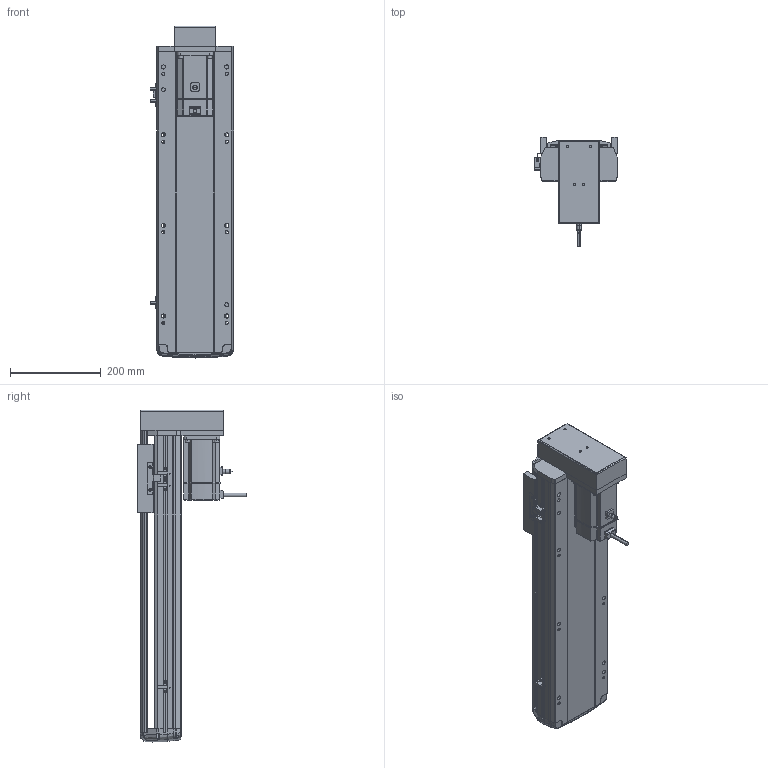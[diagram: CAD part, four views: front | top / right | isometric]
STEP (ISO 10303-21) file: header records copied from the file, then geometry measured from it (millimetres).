
FILE_DESCRIPTION (( 'STEP AP214' ), '1' );
FILE_NAME ('RTH17-XX-450-M-M75-C4.STEP', '2025-10-24T10:23:30', ( '' ), ( '' ), 'SwSTEP 2.0', 'SolidWorks 2018', '' );
FILE_SCHEMA (( 'AUTOMOTIVE_DESIGN' ));
Length unit declared in the file: millimetre
Products named in the file (10): N_M75^RTH17-XX-XX-M-M75-C4（方程式）; N_RTH17-E-004丝杆螺母连接座^RTH17-XX-XX-M-M75-C4（方程式）; N_RTH17-M-018盖子^RTH17-XX-XX-M-M75-C4（方程式）; N_RTH17-M-008-P75电机安装板下折750W^RTH17-XX-XX-M-M75-C4（方程式）; N_RTH17-GY-001P^RTH17-XX-XX-M-M75-C4（方程式）; N_RTH-BL-012 感应片(外置)^RTH17-XX-XX-M-M75-C4（方程式）; RTH17-XX-450-M-M75-C4; N_RTH17-M-007上盖^RTH17-XX-XX-M-M75-C4（方程式）; N_OMRON EE-SX672 換覜ん^RTH17-XX-XX-M-M75-C4ㄗ源最宒ㄘ; N_RTH17-M-011底座^RTH17-XX-XX-M-M75-C4（方程式）
Assembly tree (11 placements, depth 2):
  RTH17-XX-450-M-M75-C4
    N_RTH17-M-011底座^RTH17-XX-XX-M-M75-C4（方程式）
    N_RTH17-M-007上盖^RTH17-XX-XX-M-M75-C4（方程式）
    N_M75^RTH17-XX-XX-M-M75-C4（方程式）
    N_OMRON EE-SX672 換覜ん^RTH17-XX-XX-M-M75-C4ㄗ源最宒ㄘ  x3
    N_RTH-BL-012 感应片(外置)^RTH17-XX-XX-M-M75-C4（方程式）
    N_RTH17-M-008-P75电机安装板下折750W^RTH17-XX-XX-M-M75-C4（方程式）
    N_RTH17-M-018盖子^RTH17-XX-XX-M-M75-C4（方程式）
    N_RTH17-E-004丝杆螺母连接座^RTH17-XX-XX-M-M75-C4（方程式）
    N_RTH17-GY-001P^RTH17-XX-XX-M-M75-C4（方程式）
Bounding box: 183.5 x 240.7 x 733.27 mm (x, y, z)
Volume: 6466562.1 mm3; surface area: 935829.1 mm2
Topology: 10 solids, 12 shells, 1725 faces, 4742 edges, 3068 vertices
Faces by surface type: plane 826, cylinder 485, bspline 377, cone 28, torus 9
Entity records: 49931 total; most frequent: CARTESIAN_POINT 20012, ORIENTED_EDGE 6508, DIRECTION 5404, EDGE_CURVE 3258, VERTEX_POINT 2104, AXIS2_PLACEMENT_3D 1807, LINE 1790, VECTOR 1790
